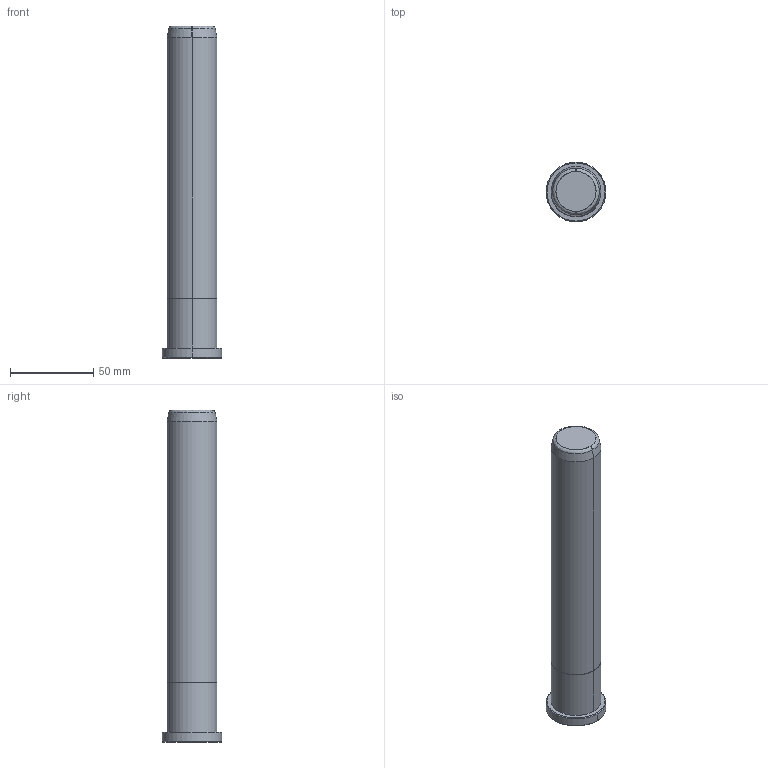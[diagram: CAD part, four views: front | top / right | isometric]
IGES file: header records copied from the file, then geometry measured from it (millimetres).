
Start section: START RECORD GO HERE.
Global section: file name: B82830200.igs; native system: DASSAULT SYSTEMES CATIA V5 R20 - www.3ds.com; preprocessor: CATIA Version 5 Release 20 ; author: Utente; organization: NB04-ASUS; date: 20200419.173313; units: millimetre
Bounding box: 36 x 36 x 200 mm (x, y, z)
Surface area: 20754.3 mm2 (no closed solid volume)
Topology: 0 solids, 0 shells, 20 faces, 80 edges, 80 vertices
Faces by surface type: revolution 16, plane 4
